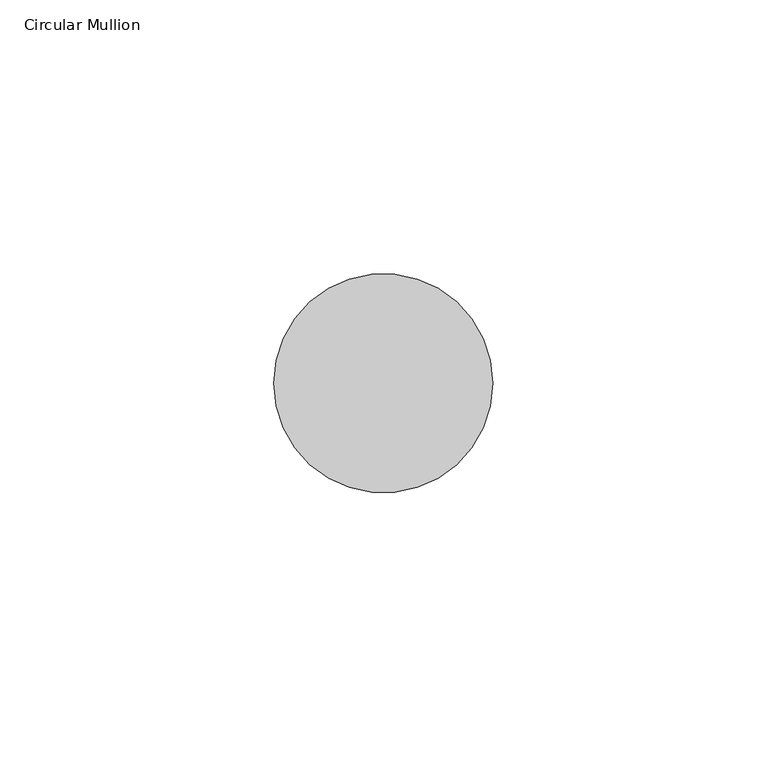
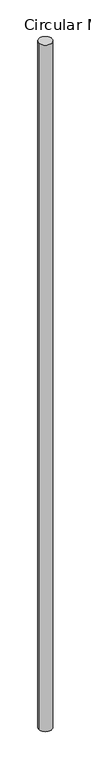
"""IFC4 building model written with IfcOpenShell, lengths in millimetres: member geometry, Circular Mullion : GRADIL 40mm."""

from ifc_helpers import new_model, si_unit, point, frame, origin, origin_2d, place, context, project, spatial, circle_curve, trimmed, segment, composite_curve, outline, extrude, source, transform, mapped, element, save


def circular_mullion_ab420463(model_context):
    return source(origin(), model_context, "Body", "SweptSolid", [
        extrude(outline(composite_curve([segment(trimmed(circle_curve(origin_2d(), 20.0), [point((20.0, 0.0))], [point((-20.0, 0.0))], False, "CARTESIAN"), True, "CONTINUOUS"), segment(trimmed(circle_curve(origin_2d(), 20.0), [point((-20.0, 0.0))], [point((20.0, 0.0))], False, "CARTESIAN"), True, "CONTINUOUS")], self_intersect=False)), frame((0.0, 0.0, -2188.2080959), z_axis=(0.0, 0.0, 1.0), x_axis=(1.0, 0.0, 0.0)), (0.0, 0.0, 1.0), 2188.2080959),
    ])


if __name__ == "__main__":
    model = new_model("IFC4")
    model_context = context("Model", 3, world=origin())
    ifc_project = project(units=[si_unit("LENGTHUNIT", "METRE", prefix="MILLI")], contexts=[model_context])
    site = spatial("IfcSite", under=ifc_project)
    building = spatial("IfcBuilding", under=site)
    placement = place(None, origin())
    circular_mullion_shape = circular_mullion_ab420463(model_context)
    element("IfcMember", 1, ObjectType="Circular Mullion : GRADIL 40mm", at=placement, inside=building, context=model_context, shape_type="MappedRepresentation", body=[
        mapped(circular_mullion_shape, transform((0.0, 0.0, 0.0), x_axis=(1.0, 0.0, 0.0), y_axis=(0.0, 1.0, 0.0), z_axis=(0.0, 0.0, 1.0))),
    ])
    save(model, "model.ifc")
